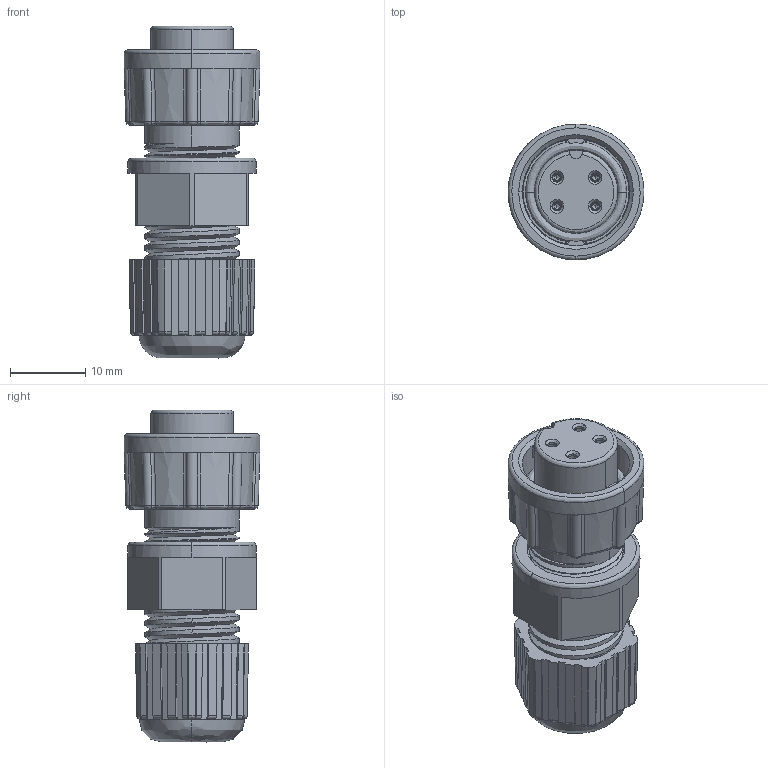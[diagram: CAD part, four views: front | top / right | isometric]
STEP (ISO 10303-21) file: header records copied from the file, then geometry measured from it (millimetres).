
FILE_DESCRIPTION (( 'STEP AP203' ), '1' );
FILE_NAME ('868-04B-203KIT.STEP', '2024-06-13T20:17:52', ( '' ), ( '' ), 'SwSTEP 2.0', 'SolidWorks 2020', '' );
FILE_SCHEMA (( 'CONFIG_CONTROL_DESIGN' ));
Length unit declared in the file: millimetre
Products named in the file (1): 868-04B-203KIT
Bounding box: 18 x 18 x 44 mm (x, y, z)
Volume: 5806.2 mm3; surface area: 6919.9 mm2
Topology: 2 solids, 2 shells, 581 faces, 1556 edges, 984 vertices
Faces by surface type: plane 219, cylinder 181, bspline 95, cone 86
Entity records: 31129 total; most frequent: CARTESIAN_POINT 17913, ORIENTED_EDGE 3080, DIRECTION 2310, EDGE_CURVE 1540, VERTEX_POINT 984, AXIS2_PLACEMENT_3D 898, EDGE_LOOP 610, ADVANCED_FACE 581
